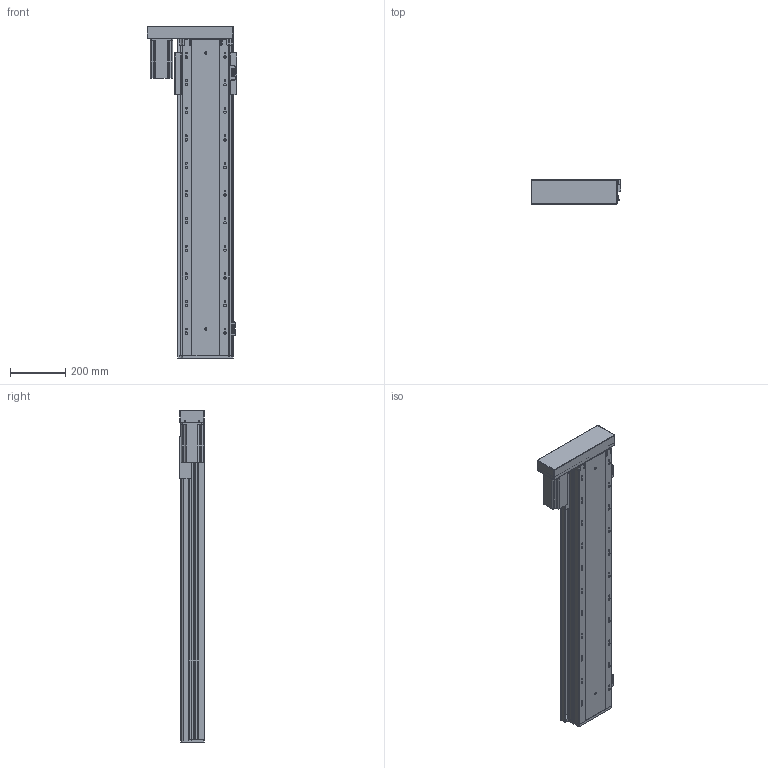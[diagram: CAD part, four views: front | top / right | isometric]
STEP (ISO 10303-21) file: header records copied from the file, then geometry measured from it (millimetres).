
FILE_DESCRIPTION (( 'STEP AP203' ), '1' );
FILE_NAME ('RY170FB-L2020-300-LK.SLDASM_900.step', '2021-02-23T03:02:53', ( '盈信电脑' ), ( '东莞市道滘镇水果街19号' ), 'SwSTEP 2.0', 'SolidWorks 2012', '' );
FILE_SCHEMA (( 'CONFIG_CONTROL_DESIGN' ));
Length unit declared in the file: millimetre
Products named in the file (16): RY170FB-L2020-300-LK.SLDASM_900; RY170FB-左右折电机安装板750W; RY140FB-674嫖萇覜茼え; RY170FB-酘衵殏萇儂欶750W; RY140-674嫖萇耀輸; RY140直线电机感应器674光电安装座; RY170FB-铝滑块(25丝杆）; RY170FB-300蛌殏奻裔-LK_900; 覜茼ん674; RY170FB-綴裔啣; 怢湛750W萇儂ㄗ80遺ㄘ; 滅袉蝶18-28; RY170FB-转折电机端支撑座(7002); 滅袉蝶18-10; RY170FB-300蛌殏倰第菁釱-LK_900
Assembly tree (18 placements, depth 3):
  RY170FB-L2020-300-LK.SLDASM_900
    RY170FB-300蛌殏倰第菁釱-LK_900
    滅袉蝶18-28
    滅袉蝶18-10
    RY170FB-转折电机端支撑座(7002)
    怢湛750W萇儂ㄗ80遺ㄘ
    RY170FB-铝滑块(25丝杆）
    RY170FB-綴裔啣
    RY170FB-300蛌殏奻裔-LK_900
    RY140-674嫖萇耀輸
      覜茼ん674  x2
      RY140直线电机感应器674光电安装座
    RY140-674嫖萇耀輸
      覜茼ん674
      RY140直线电机感应器674光电安装座
    RY140FB-674嫖萇覜茼え
    RY170FB-左右折电机安装板750W
    RY170FB-酘衵殏萇儂欶750W
Bounding box: 323.95 x 90.5 x 1202.7 mm (x, y, z)
Volume: 7447282.9 mm3; surface area: 2171862.5 mm2
Topology: 16 solids, 16 shells, 1705 faces, 4930 edges, 3134 vertices
Faces by surface type: cylinder 931, plane 598, cone 168, bspline 8
Entity records: 55919 total; most frequent: CARTESIAN_POINT 14118, ORIENTED_EDGE 8576, DIRECTION 8146, EDGE_CURVE 4288, AXIS2_PLACEMENT_3D 2984, VERTEX_POINT 2814, LINE 2178, VECTOR 2178
